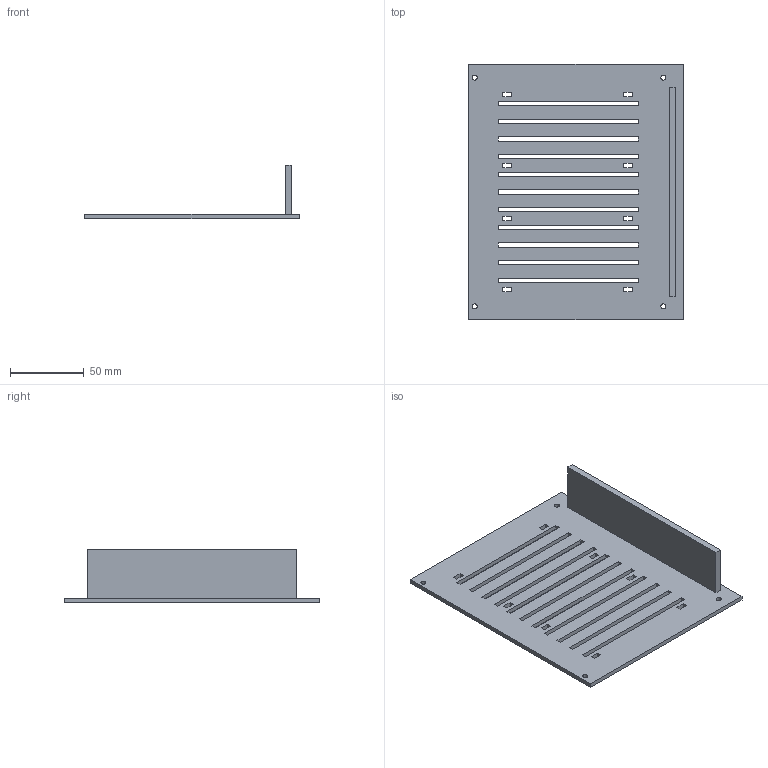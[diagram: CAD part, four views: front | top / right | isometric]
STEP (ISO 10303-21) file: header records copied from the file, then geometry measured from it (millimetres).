
FILE_DESCRIPTION(('Open CASCADE Model'),'2;1');
FILE_NAME('Open CASCADE Shape Model','2026-10-23T16:06:27',('Author'),( 'Open CASCADE'),'Open CASCADE STEP processor 7.8','Open CASCADE 7.8' ,'Unknown');
FILE_SCHEMA(('AUTOMOTIVE_DESIGN { 1 0 10303 214 1 1 1 1 }'));
Length unit declared in the file: millimetre
Products named in the file (1): Open CASCADE STEP translator 7.8 5
Bounding box: 145.25 x 173.2 x 36.4 mm (x, y, z)
Volume: 84497.1 mm3; surface area: 62375.6 mm2
Topology: 1 solids, 1 shells, 91 faces, 264 edges, 176 vertices
Faces by surface type: plane 87, cylinder 4
Full cylindrical faces by diameter (mm): 3.4 x4
Entity records: 6176 total; most frequent: CARTESIAN_POINT 1364, DIRECTION 680, ORIENTED_EDGE 528, PCURVE 528, DEFINITIONAL_REPRESENTATION 528, LINE 472, VECTOR 472, B_SPLINE_CURVE_WITH_KNOTS 304
